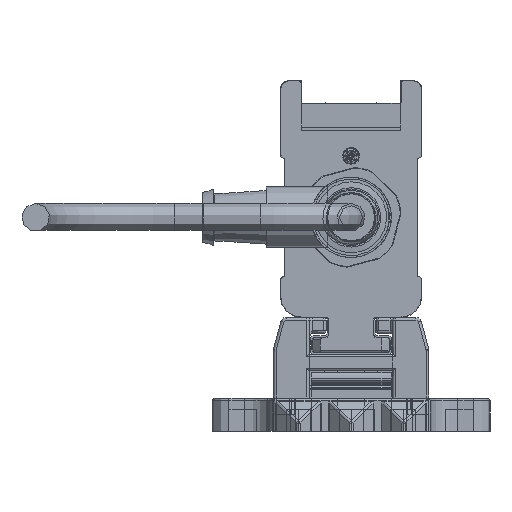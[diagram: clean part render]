
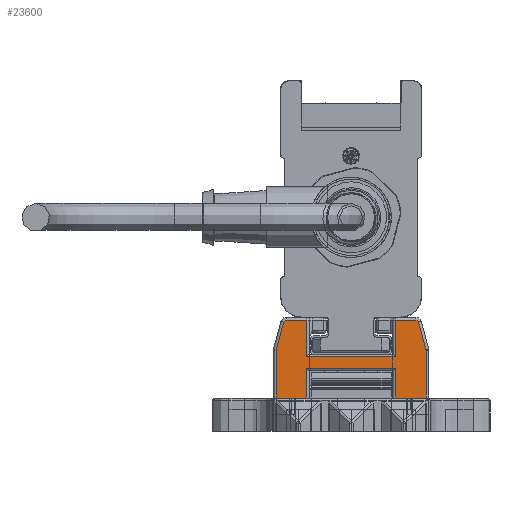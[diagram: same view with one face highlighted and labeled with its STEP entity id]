
A CAD part, left-side view. The second image highlights one B-rep face of the part: STEP entity #23600.
In plain terms, the highlighted planar face has unit normal (-1, 0, 0).
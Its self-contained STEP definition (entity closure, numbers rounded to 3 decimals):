
#23600=ADVANCED_FACE('', (#23610), #23620, .T.);
#189050=AXIS2_PLACEMENT_3D('Ax2Pl3d', #189060, #189070, #189080);
#189290=AXIS2_PLACEMENT_3D('Ax2Pl3d', #189300, #189310, #189320);
#194170=AXIS2_PLACEMENT_3D('Ax2Pl3d', #194180, #194190, #194200);
#199250=AXIS2_PLACEMENT_3D('Ax2Pl3d', #199260, #199270, #199280);
#208930=AXIS2_PLACEMENT_3D('Ax2Pl3d', #208940, #208950, #208960);
#844600=CARTESIAN_POINT('', (-747.669,-5766.345,
331.37));
#189060=CARTESIAN_POINT('HicPkt', (-747.669,-5765.379,
331.111));
#844610=CARTESIAN_POINT('', (-747.669,-5766.379,331.111)
);
#844620=CARTESIAN_POINT('', (-747.669,-5765.037,
336.255));
#844640=CARTESIAN_POINT('', (-747.669,-5765.037,
336.255));
#844670=CARTESIAN_POINT('', (-747.669,-5764.554,
336.625));
#189300=CARTESIAN_POINT('HicPkt', (-747.669,-5764.554,
336.125));
#844890=CARTESIAN_POINT('', (-747.669,-5766.379,322.625)
);
#844900=CARTESIAN_POINT('', (-747.669,-5760.881,322.625)
);
#844910=CARTESIAN_POINT('', (-747.669,-5760.881,322.625)
);
#844990=CARTESIAN_POINT('', (-747.669,-5744.881,322.625)
);
#845000=CARTESIAN_POINT('', (-747.669,-5739.383,322.625)
);
#845010=CARTESIAN_POINT('', (-747.669,-5739.383,322.625)
);
#194180=CARTESIAN_POINT('HicPkt', (-747.669,-5741.209,
336.125));
#847480=CARTESIAN_POINT('', (-747.669,-5740.726,
336.255));
#847490=CARTESIAN_POINT('', (-747.669,-5741.209,
336.625));
#847500=CARTESIAN_POINT('', (-747.669,-5760.881,
330.025));
#847510=CARTESIAN_POINT('', (-747.669,-5744.881,
330.025));
#847520=CARTESIAN_POINT('', (-747.669,-5760.881,
330.025));
#847680=CARTESIAN_POINT('', (-747.669,-5760.881,
328.005));
#847690=CARTESIAN_POINT('', (-747.669,-5744.881,
328.005));
#847700=CARTESIAN_POINT('', (-747.669,-5744.881,
328.005));
#847710=CARTESIAN_POINT('', (-747.669,-5760.881,
328.005));
#847730=CARTESIAN_POINT('', (-747.669,-5744.881,322.625)
);
#847740=CARTESIAN_POINT('', (-747.669,-5744.881,
330.025));
#847750=CARTESIAN_POINT('', (-747.669,-5744.881,
336.625));
#848600=CARTESIAN_POINT('', (-747.669,-5744.881,
336.625));
#848610=CARTESIAN_POINT('', (-747.669,-5740.726,
336.255));
#848620=CARTESIAN_POINT('', (-747.669,-5739.417,
331.37));
#848810=CARTESIAN_POINT('', (-747.669,-5739.383,331.111)
);
#848820=CARTESIAN_POINT('', (-747.669,-5739.383,331.111)
);
#199260=CARTESIAN_POINT('HicPkt', (-747.669,-5740.383,
331.111));
#849630=CARTESIAN_POINT('', (-747.669,-5766.379,331.111)
);
#208940=CARTESIAN_POINT('HicPkt', (-747.669,-5764.554,
336.625));
#851430=CARTESIAN_POINT('', (-747.669,-5760.881,
336.625));
#851440=CARTESIAN_POINT('', (-747.669,-5760.881,
336.625));
#851450=CARTESIAN_POINT('', (-747.669,-5760.881,
336.625));
#981330=CIRCLE('Circle', #189050, 1.);
#981370=CIRCLE('Circle', #189290, 0.5);
#981950=CIRCLE('Circle', #194170, 0.5);
#982480=CIRCLE('Circle', #199250, 1.);
#189070=DIRECTION('Axis', (-1.,0.,
0.));
#189080=DIRECTION('RefDirection', (0.,
0.,-1.));
#1367870=DIRECTION('', (0.,0.259,
0.966));
#189310=DIRECTION('Axis', (-1.,0.,
0.));
#189320=DIRECTION('RefDirection', (0.,
0.,-1.));
#1367980=DIRECTION('', (0.,1.,0.));
#1368020=DIRECTION('', (0.,1.,0.));
#194190=DIRECTION('Axis', (1.,0.,
0.));
#194200=DIRECTION('RefDirection', (0.,
0.,-1.));
#1369210=DIRECTION('', (0.,-1.,0.));
#1369310=DIRECTION('', (0.,1.,0.));
#1369320=DIRECTION('', (0.,0.,1.));
#1369340=DIRECTION('', (0.,0.,-1.));
#1369350=DIRECTION('', (0.,0.,-1.));
#1369780=DIRECTION('', (0.,-1.,0.))
;
#1369790=DIRECTION('', (0.,-0.259,0.966));
#1369880=DIRECTION('', (0.,0.,1.));
#199270=DIRECTION('Axis', (1.,0.,
0.));
#199280=DIRECTION('RefDirection', (0.,
0.,-1.));
#1370250=DIRECTION('', (0.,0.,1.));
#208950=DIRECTION('Axis', (-1.,0.,
0.));
#208960=DIRECTION('RefDirection', (0.,
0.,-1.));
#1371090=DIRECTION('', (0.,1.,0.));
#1371100=DIRECTION('', (0.,0.,1.));
#1456860=EDGE_CURVE('', #1456870, #1456850, #981330, .T.);
#1456920=EDGE_CURVE('', #1456850, #1456900, #1456930, .T.);
#1456990=EDGE_CURVE('', #1456900, #1456980, #981370, .T.);
#1457440=EDGE_CURVE('', #1457430, #1457450, #1457460, .T.);
#1457600=EDGE_CURVE('', #1457590, #1457610, #1457620, .T.);
#1461960=EDGE_CURVE('', #1461970, #1461980, #981950, .T.);
#1462010=EDGE_CURVE('', #1462020, #1462030, #1462040, .T.);
#1462380=EDGE_CURVE('', #1462360, #1462390, #1462400, .T.);
#1462430=EDGE_CURVE('', #1457450, #1462360, #1462440, .T.);
#1462470=EDGE_CURVE('', #1462390, #1457590, #1462480, .T.);
#1462490=EDGE_CURVE('', #1462500, #1462020, #1462510, .T.);
#1464330=EDGE_CURVE('', #1461980, #1462500, #1464340, .T.);
#1464400=EDGE_CURVE('', #1464410, #1461970, #1464420, .T.);
#1464840=EDGE_CURVE('', #1457610, #1464850, #1464860, .T.);
#1464880=EDGE_CURVE('', #1464850, #1464410, #982480, .T.);
#1466590=EDGE_CURVE('', #1457430, #1456870, #1466600, .T.);
#1470400=EDGE_CURVE('', #1456980, #1470410, #1470420, .T.);
#1470430=EDGE_CURVE('', #1462030, #1470410, #1470440, .T.);
#1750440=EDGE_LOOP('Edge_loop', (#1750450,#1750460,#1750470,#1750480,
#1750490,#1750500,#1750510,#1750520,#1750530,#1750540,#1750550,
#1750560,#1750570,#1750580,#1750590,#1750600,#1750610,#1750620));
#23610=FACE_OUTER_BOUND('Face_outer_bound', #1750440, .T.);
#1456930=LINE('Line', #844640, #2017940);
#1457460=LINE('Line', #844900, #2018050);
#1457620=LINE('Line', #845000, #2018090);
#1462040=LINE('Line', #847500, #2019280);
#1462400=LINE('Line', #847690, #2019380);
#1462440=LINE('Line', #847710, #2019390);
#1462480=LINE('Line', #847730, #2019410);
#1462510=LINE('Line', #847740, #2019420);
#1464340=LINE('Line', #848600, #2019850);
#1464420=LINE('Line', #848610, #2019860);
#1464860=LINE('Line', #848810, #2019950);
#1466600=LINE('Line', #849630, #2020320);
#1470420=LINE('Line', #851430, #2021160);
#1470440=LINE('Line', #851450, #2021170);
#1750450=ORIENTED_EDGE('', *, *, #1470400, .T.);
#1750460=ORIENTED_EDGE('', *, *, #1470430, .F.);
#1750470=ORIENTED_EDGE('', *, *, #1462010, .F.);
#1750480=ORIENTED_EDGE('', *, *, #1462490, .F.);
#1750490=ORIENTED_EDGE('', *, *, #1464330, .F.);
#1750500=ORIENTED_EDGE('', *, *, #1461960, .F.);
#1750510=ORIENTED_EDGE('', *, *, #1464400, .F.);
#1750520=ORIENTED_EDGE('', *, *, #1464880, .F.);
#1750530=ORIENTED_EDGE('', *, *, #1464840, .F.);
#1750540=ORIENTED_EDGE('', *, *, #1457600, .F.);
#1750550=ORIENTED_EDGE('', *, *, #1462470, .F.);
#1750560=ORIENTED_EDGE('', *, *, #1462380, .F.);
#1750570=ORIENTED_EDGE('', *, *, #1462430, .F.);
#1750580=ORIENTED_EDGE('', *, *, #1457440, .F.);
#1750590=ORIENTED_EDGE('', *, *, #1466590, .T.);
#1750600=ORIENTED_EDGE('', *, *, #1456860, .T.);
#1750610=ORIENTED_EDGE('', *, *, #1456920, .T.);
#1750620=ORIENTED_EDGE('', *, *, #1456990, .T.);
#23620=PLANE('Plane', #208930);
#2017940=VECTOR('', #1367870, 5.057);
#2018050=VECTOR('', #1367980, 5.498);
#2018090=VECTOR('', #1368020, 5.498);
#2019280=VECTOR('', #1369210, 16.);
#2019380=VECTOR('', #1369310, 16.);
#2019390=VECTOR('', #1369320, 5.38);
#2019410=VECTOR('', #1369340, 5.38);
#2019420=VECTOR('', #1369350, 6.6);
#2019850=VECTOR('', #1369780, 3.672);
#2019860=VECTOR('', #1369790, 5.057);
#2019950=VECTOR('', #1369880, 8.486);
#2020320=VECTOR('', #1370250, 8.486);
#2021160=VECTOR('', #1371090, 3.672);
#2021170=VECTOR('', #1371100, 6.6);
#1456850=VERTEX_POINT('', #844600);
#1456870=VERTEX_POINT('', #844610);
#1456900=VERTEX_POINT('', #844620);
#1456980=VERTEX_POINT('', #844670);
#1457430=VERTEX_POINT('', #844890);
#1457450=VERTEX_POINT('', #844910);
#1457590=VERTEX_POINT('', #844990);
#1457610=VERTEX_POINT('', #845010);
#1461970=VERTEX_POINT('', #847480);
#1461980=VERTEX_POINT('', #847490);
#1462020=VERTEX_POINT('', #847510);
#1462030=VERTEX_POINT('', #847520);
#1462360=VERTEX_POINT('', #847680);
#1462390=VERTEX_POINT('', #847700);
#1462500=VERTEX_POINT('', #847750);
#1464410=VERTEX_POINT('', #848620);
#1464850=VERTEX_POINT('', #848820);
#1470410=VERTEX_POINT('', #851440);
